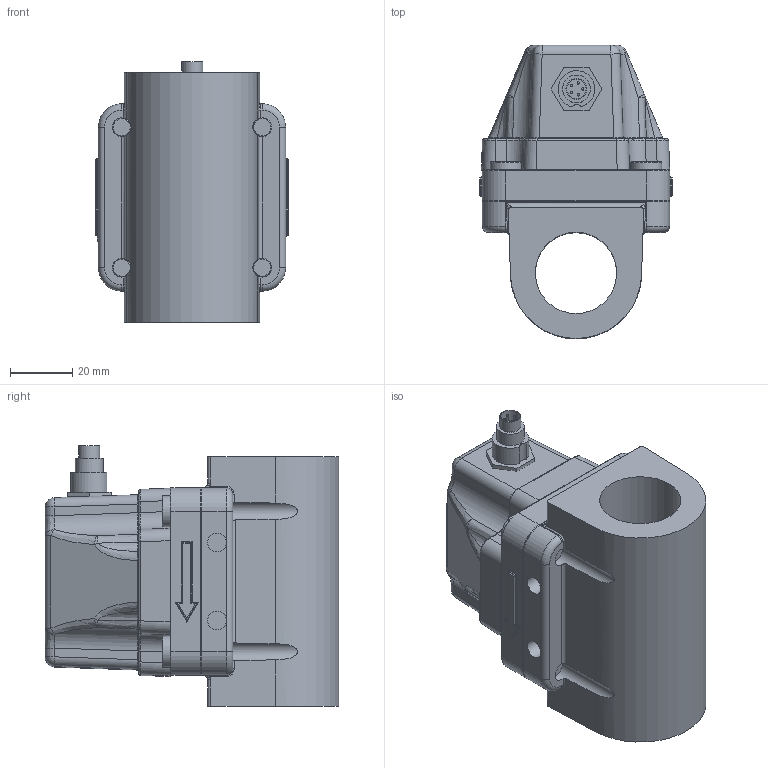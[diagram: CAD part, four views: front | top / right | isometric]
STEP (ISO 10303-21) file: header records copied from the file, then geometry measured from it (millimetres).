
FILE_DESCRIPTION(/* description */ ('Alibre Inc.'),/* implementation_level */ '2;1');
FILE_NAME(/* name */ 'export0',/* time_stamp */ '2012-11-14T15:50:56+01:00',/* author */ (''),/* organization */ (''),/* preprocessor_version */ 'ST-DEVELOPER v14',/* originating_system */ 'Alibre',/* authorisation */ '');
FILE_SCHEMA (('CONFIG_CONTROL_DESIGN'));
Length unit declared in the file: centimetre
Products named in the file (6): ID_1; ID_2; ID_3; ID_4
Bounding box: 61.5 x 94 x 83.5 mm (x, y, z)
Volume: 150442.7 mm3; surface area: 57899 mm2
Topology: 8 solids, 8 shells, 685 faces, 1545 edges, 892 vertices
Faces by surface type: cylinder 220, plane 205, bspline 134, cone 60, sphere 38, torus 28
Full cylindrical faces by diameter (mm): 0.75 x5, 3.198 x4, 6 x18, 6.2 x1, 6.4 x4, 6.7 x1, 8.9 x1, 9.6 x4, 10 x4, 11 x4, 17.2 x2, 21.1 x2, 26 x1
Entity records: 42185 total; most frequent: CARTESIAN_POINT 29229, ORIENTED_EDGE 2576, DIRECTION 2368, EDGE_CURVE 1288, AXIS2_PLACEMENT_3D 1043, VERTEX_POINT 778, EDGE_LOOP 710, FACE_BOUND 710
